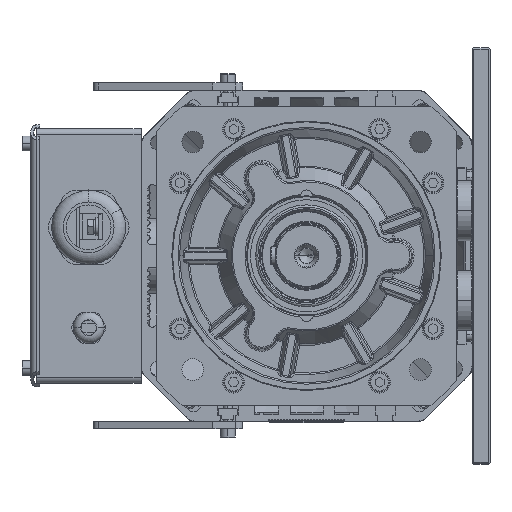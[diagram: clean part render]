
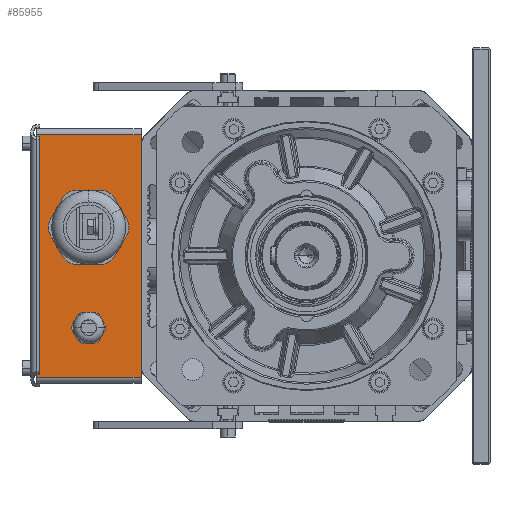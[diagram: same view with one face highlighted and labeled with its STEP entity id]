
A CAD part, left-side view. The second image highlights one B-rep face of the part: STEP entity #85955.
In plain terms, the highlighted planar face has unit normal (-1, 0, 0).
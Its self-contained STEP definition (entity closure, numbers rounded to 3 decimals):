
#83757=DIRECTION('',(0.,0.,1.));
#83758=VECTOR('',#83757,162.);
#83759=CARTESIAN_POINT('',(76.,110.5,-81.));
#83760=LINE('',#83759,#83758);
#84034=CARTESIAN_POINT('',(76.,145.5,-48.));
#84035=DIRECTION('',(-1.,0.,0.));
#84036=DIRECTION('',(0.,1.,0.));
#84037=AXIS2_PLACEMENT_3D('',#84034,#84035,#84036);
#84039=CARTESIAN_POINT('',(76.,145.5,-48.));
#84040=DIRECTION('',(-1.,0.,0.));
#84041=DIRECTION('',(0.,-1.,0.));
#84042=AXIS2_PLACEMENT_3D('',#84039,#84040,#84041);
#84044=CARTESIAN_POINT('',(76.,145.5,19.));
#84045=DIRECTION('',(-1.,0.,0.));
#84046=DIRECTION('',(0.,1.,0.));
#84047=AXIS2_PLACEMENT_3D('',#84044,#84045,#84046);
#84049=CARTESIAN_POINT('',(76.,145.5,19.));
#84050=DIRECTION('',(-1.,0.,0.));
#84051=DIRECTION('',(0.,-1.,0.));
#84052=AXIS2_PLACEMENT_3D('',#84049,#84050,#84051);
#84054=DIRECTION('',(0.,0.,1.));
#84055=VECTOR('',#84054,162.);
#84056=CARTESIAN_POINT('',(76.,180.5,-81.));
#84057=LINE('',#84056,#84055);
#85002=DIRECTION('',(0.,-1.,0.));
#85003=VECTOR('',#85002,70.);
#85004=CARTESIAN_POINT('',(76.,180.5,-81.));
#85005=LINE('',#85004,#85003);
#85022=DIRECTION('',(0.,1.,0.));
#85023=VECTOR('',#85022,70.);
#85024=CARTESIAN_POINT('',(76.,110.5,81.));
#85025=LINE('',#85024,#85023);
#85334=CARTESIAN_POINT('',(76.,155.5,-48.));
#85335=CARTESIAN_POINT('',(76.,135.5,-48.));
#85336=VERTEX_POINT('',#85334);
#85337=VERTEX_POINT('',#85335);
#85338=CARTESIAN_POINT('',(76.,170.5,19.));
#85339=CARTESIAN_POINT('',(76.,120.5,19.));
#85340=VERTEX_POINT('',#85338);
#85341=VERTEX_POINT('',#85339);
#85538=CARTESIAN_POINT('',(76.,110.5,-81.));
#85540=VERTEX_POINT('',#85538);
#85551=CARTESIAN_POINT('',(76.,110.5,81.));
#85553=VERTEX_POINT('',#85551);
#85570=CARTESIAN_POINT('',(76.,180.5,81.));
#85572=VERTEX_POINT('',#85570);
#85583=CARTESIAN_POINT('',(76.,180.5,-81.));
#85585=VERTEX_POINT('',#85583);
#85930=CARTESIAN_POINT('',(76.,110.5,-85.));
#85931=DIRECTION('',(-1.,0.,0.));
#85932=DIRECTION('',(0.,0.,1.));
#85933=AXIS2_PLACEMENT_3D('',#85930,#85931,#85932);
#85934=PLANE('',#85933);
#85936=ORIENTED_EDGE('',*,*,#85935,.F.);
#85937=ORIENTED_EDGE('',*,*,#85737,.F.);
#85939=ORIENTED_EDGE('',*,*,#85938,.F.);
#85940=ORIENTED_EDGE('',*,*,#85797,.T.);
#85941=EDGE_LOOP('',(#85936,#85937,#85939,#85940));
#85942=FACE_OUTER_BOUND('',#85941,.F.);
#85944=ORIENTED_EDGE('',*,*,#85943,.T.);
#85946=ORIENTED_EDGE('',*,*,#85945,.T.);
#85947=EDGE_LOOP('',(#85944,#85946));
#85948=FACE_BOUND('',#85947,.F.);
#85950=ORIENTED_EDGE('',*,*,#85949,.T.);
#85952=ORIENTED_EDGE('',*,*,#85951,.T.);
#85953=EDGE_LOOP('',(#85950,#85952));
#85954=FACE_BOUND('',#85953,.F.);
#85955=ADVANCED_FACE('',(#85942,#85948,#85954),#85934,.T.);
#84038=CIRCLE('',#84037,10.);
#84043=CIRCLE('',#84042,10.);
#84048=CIRCLE('',#84047,25.);
#84053=CIRCLE('',#84052,25.);
#85737=EDGE_CURVE('',#85540,#85553,#83760,.T.);
#85797=EDGE_CURVE('',#85585,#85572,#84057,.T.);
#85935=EDGE_CURVE('',#85553,#85572,#85025,.T.);
#85938=EDGE_CURVE('',#85585,#85540,#85005,.T.);
#85943=EDGE_CURVE('',#85340,#85341,#84048,.T.);
#85945=EDGE_CURVE('',#85341,#85340,#84053,.T.);
#85949=EDGE_CURVE('',#85336,#85337,#84038,.T.);
#85951=EDGE_CURVE('',#85337,#85336,#84043,.T.);
